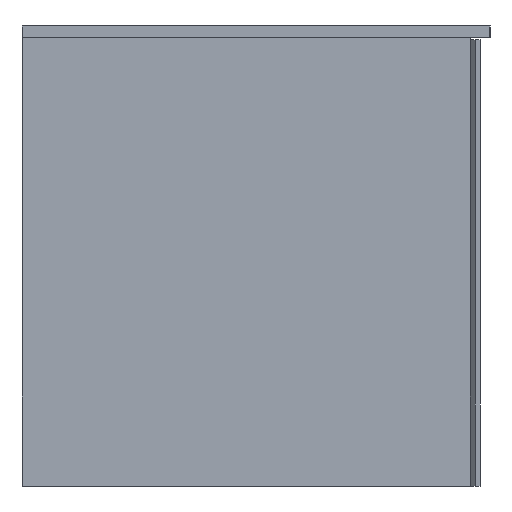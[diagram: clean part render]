
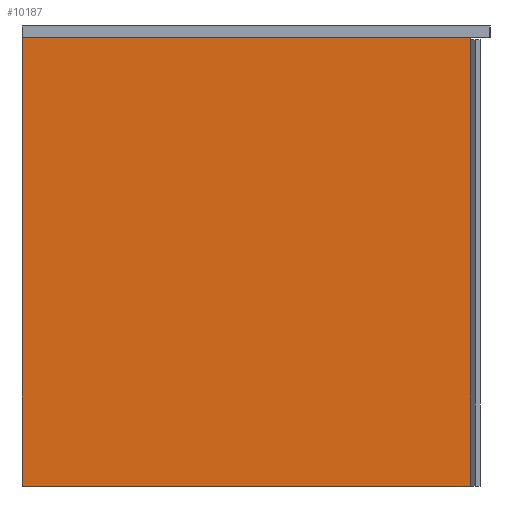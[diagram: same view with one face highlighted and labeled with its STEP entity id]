
A CAD part, left-side view. The second image highlights one B-rep face of the part: STEP entity #10187.
In plain terms, the highlighted planar face has unit normal (-1, 0, 0).
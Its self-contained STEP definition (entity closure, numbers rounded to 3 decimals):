
#290 = ORIENTED_EDGE ( 'NONE', *, *, #2865, .F. ) ;
#392 = LINE ( 'NONE', #1780, #4663 ) ;
#743 = DIRECTION ( 'NONE',  ( 0., 1., 0. ) ) ;
#982 = CARTESIAN_POINT ( 'NONE',  ( -3863.17, -132.892, 390. ) ) ;
#1345 = VECTOR ( 'NONE', #3950, 1000. ) ;
#1375 = DIRECTION ( 'NONE',  ( 0., 0., -1. ) ) ;
#1780 = CARTESIAN_POINT ( 'NONE',  ( -3863.17, 317.108, 280. ) ) ;
#2741 = ORIENTED_EDGE ( 'NONE', *, *, #7684, .F. ) ;
#2795 = ORIENTED_EDGE ( 'NONE', *, *, #11150, .F. ) ;
#2865 = EDGE_CURVE ( 'NONE', #6992, #10143, #8673, .T. ) ;
#3950 = DIRECTION ( 'NONE',  ( 0., -1., 0. ) ) ;
#4194 = CARTESIAN_POINT ( 'NONE',  ( -3863.17, 317.108, 390. ) ) ;
#4663 = VECTOR ( 'NONE', #8590, 1000. ) ;
#4924 = PLANE ( 'NONE',  #6625 ) ;
#4958 = LINE ( 'NONE', #8317, #1345 ) ;
#5260 = DIRECTION ( 'NONE',  ( 0., 0., -1. ) ) ;
#5468 = CARTESIAN_POINT ( 'NONE',  ( -3863.17, -132.892, -60. ) ) ;
#6473 = ORIENTED_EDGE ( 'NONE', *, *, #7206, .F. ) ;
#6625 = AXIS2_PLACEMENT_3D ( 'NONE', #11733, #13964, #1375 ) ;
#6992 = VERTEX_POINT ( 'NONE', #982 ) ;
#7135 = VECTOR ( 'NONE', #5260, 1000. ) ;
#7206 = EDGE_CURVE ( 'NONE', #10143, #7529, #9016, .T. ) ;
#7387 = VERTEX_POINT ( 'NONE', #4194 ) ;
#7529 = VERTEX_POINT ( 'NONE', #15147 ) ;
#7684 = EDGE_CURVE ( 'NONE', #7529, #7387, #392, .T. ) ;
#7823 = VECTOR ( 'NONE', #743, 1000. ) ;
#8317 = CARTESIAN_POINT ( 'NONE',  ( -3863.17, 92.108, 390. ) ) ;
#8452 = CARTESIAN_POINT ( 'NONE',  ( -3863.17, -132.892, 280. ) ) ;
#8590 = DIRECTION ( 'NONE',  ( 0., 0., 1. ) ) ;
#8673 = LINE ( 'NONE', #8452, #7135 ) ;
#9016 = LINE ( 'NONE', #10019, #7823 ) ;
#10019 = CARTESIAN_POINT ( 'NONE',  ( -3863.17, 92.108, -60. ) ) ;
#10143 = VERTEX_POINT ( 'NONE', #5468 ) ;
#10187 = ADVANCED_FACE ( 'NONE', ( #10505 ), #4924, .F. ) ;
#10505 = FACE_OUTER_BOUND ( 'NONE', #10784, .T. ) ;
#10784 = EDGE_LOOP ( 'NONE', ( #2795, #2741, #6473, #290 ) ) ;
#11150 = EDGE_CURVE ( 'NONE', #7387, #6992, #4958, .T. ) ;
#11733 = CARTESIAN_POINT ( 'NONE',  ( -3863.17, 92.108, 280. ) ) ;
#13964 = DIRECTION ( 'NONE',  ( 1., 0., 0. ) ) ;
#15147 = CARTESIAN_POINT ( 'NONE',  ( -3863.17, 317.108, -60. ) ) ;
